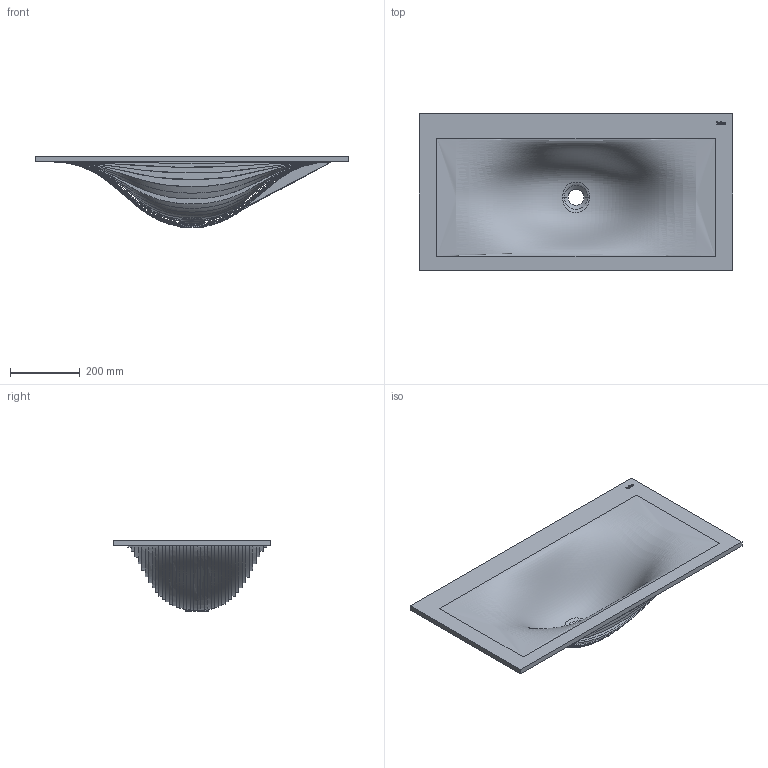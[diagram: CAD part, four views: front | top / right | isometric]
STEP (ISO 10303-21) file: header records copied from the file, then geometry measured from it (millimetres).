
FILE_DESCRIPTION(/* description */ (''),/* implementation_level */ '2;1');
FILE_NAME(/* name */ '5010_Laos',/* time_stamp */ '2024-10-16T12:43:44+02:00',/* author */ (''),/* organization */ (''),/* preprocessor_version */ 'ST-DEVELOPER v19.2',/* originating_system */ 'Rhino 8.11',/* authorisation */ '');
FILE_SCHEMA (('CONFIG_CONTROL_DESIGN'));
Length unit declared in the file: millimetre
Products named in the file (1): Document
Bounding box: 900 x 450 x 203.12 mm (x, y, z)
Volume: 11513520.7 mm3; surface area: 1100733.4 mm2
Topology: 7 solids, 7 shells, 259 faces, 615 edges, 381 vertices
Faces by surface type: plane 155, bspline 96, cylinder 8
Entity records: 29577 total; most frequent: CARTESIAN_POINT 25176, ORIENTED_EDGE 1230, EDGE_CURVE 615, B_SPLINE_CURVE_WITH_KNOTS 559, VERTEX_POINT 381, EDGE_LOOP 278, ADVANCED_FACE 259, FACE_OUTER_BOUND 259
